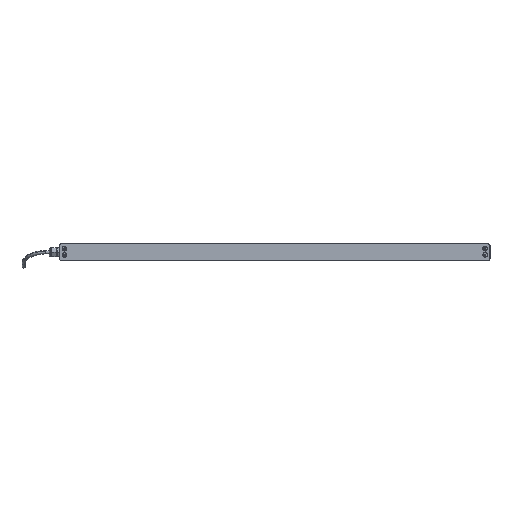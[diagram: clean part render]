
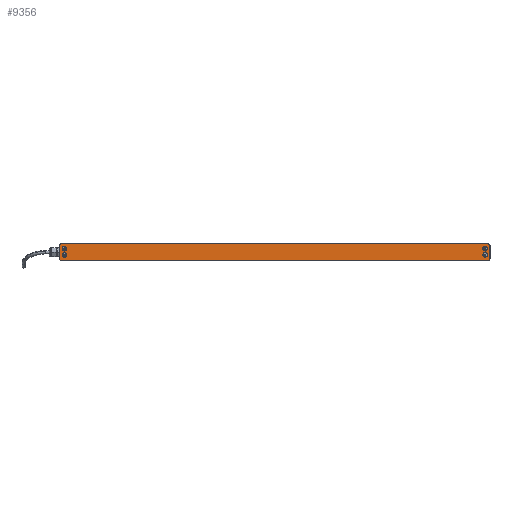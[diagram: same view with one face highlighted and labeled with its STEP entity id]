
A CAD part, left-side view. The second image highlights one B-rep face of the part: STEP entity #9356.
In plain terms, the highlighted planar face has unit normal (-1, 0, 0) as drawn and (0, 0, -1) by its records, which use the part's own axes.
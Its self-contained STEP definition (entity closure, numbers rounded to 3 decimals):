
#121 = EDGE_CURVE ( 'NONE', #3970, #3362, #15264, .T. ) ;
#183 = DIRECTION ( 'NONE',  ( 0., 0., 1. ) ) ;
#190 = CIRCLE ( 'NONE', #9051, 5.6 ) ;
#393 = CARTESIAN_POINT ( 'NONE',  ( 500.7, 8.5, 0. ) ) ;
#458 = CARTESIAN_POINT ( 'NONE',  ( 506.3, 8.5, 0. ) ) ;
#475 = CARTESIAN_POINT ( 'NONE',  ( 514., 20., 0. ) ) ;
#538 = CARTESIAN_POINT ( 'NONE',  ( -500.7, 8.5, 0. ) ) ;
#726 = FACE_BOUND ( 'NONE', #14527, .T. ) ;
#760 = CARTESIAN_POINT ( 'NONE',  ( -511.9, -6.3, 0. ) ) ;
#849 = ORIENTED_EDGE ( 'NONE', *, *, #4020, .F. ) ;
#1157 = VERTEX_POINT ( 'NONE', #12655 ) ;
#1159 = VERTEX_POINT ( 'NONE', #4484 ) ;
#1169 = DIRECTION ( 'NONE',  ( -1., 0., 0. ) ) ;
#1280 = VERTEX_POINT ( 'NONE', #5109 ) ;
#1849 = DIRECTION ( 'NONE',  ( 0., 0., 1. ) ) ;
#1910 = PLANE ( 'NONE',  #3152 ) ;
#1949 = CARTESIAN_POINT ( 'NONE',  ( -514., -20., 0. ) ) ;
#1974 = AXIS2_PLACEMENT_3D ( 'NONE', #14156, #2126, #7984 ) ;
#1983 = CARTESIAN_POINT ( 'NONE',  ( 518., 16., 0. ) ) ;
#2126 = DIRECTION ( 'NONE',  ( 0., 0., -1. ) ) ;
#2312 = VERTEX_POINT ( 'NONE', #11518 ) ;
#2351 = EDGE_CURVE ( 'NONE', #5196, #6879, #12809, .T. ) ;
#2356 = DIRECTION ( 'NONE',  ( 0., 0., -1. ) ) ;
#2375 = CIRCLE ( 'NONE', #2871, 5.6 ) ;
#2514 = ORIENTED_EDGE ( 'NONE', *, *, #10437, .F. ) ;
#2527 = VECTOR ( 'NONE', #10551, 1000. ) ;
#2608 = EDGE_CURVE ( 'NONE', #6361, #1157, #6734, .T. ) ;
#2660 = ORIENTED_EDGE ( 'NONE', *, *, #5566, .F. ) ;
#2854 = ORIENTED_EDGE ( 'NONE', *, *, #4247, .F. ) ;
#2871 = AXIS2_PLACEMENT_3D ( 'NONE', #9573, #2356, #1169 ) ;
#2912 = VECTOR ( 'NONE', #6779, 1000. ) ;
#2943 = AXIS2_PLACEMENT_3D ( 'NONE', #458, #6540, #10109 ) ;
#3027 = DIRECTION ( 'NONE',  ( 0., 0., -1. ) ) ;
#3046 = CARTESIAN_POINT ( 'NONE',  ( -514., -16., 0. ) ) ;
#3152 = AXIS2_PLACEMENT_3D ( 'NONE', #11482, #3027, #12841 ) ;
#3184 = EDGE_CURVE ( 'NONE', #4686, #3429, #6003, .T. ) ;
#3227 = EDGE_CURVE ( 'NONE', #11441, #10648, #190, .T. ) ;
#3362 = VERTEX_POINT ( 'NONE', #475 ) ;
#3429 = VERTEX_POINT ( 'NONE', #5526 ) ;
#3443 = CARTESIAN_POINT ( 'NONE',  ( 518., -16., 0. ) ) ;
#3505 = AXIS2_PLACEMENT_3D ( 'NONE', #10673, #12979, #14072 ) ;
#3748 = ORIENTED_EDGE ( 'NONE', *, *, #121, .F. ) ;
#3826 = CARTESIAN_POINT ( 'NONE',  ( -518., -16., 0. ) ) ;
#3970 = VERTEX_POINT ( 'NONE', #1983 ) ;
#4020 = EDGE_CURVE ( 'NONE', #1159, #9163, #5021, .T. ) ;
#4025 = CIRCLE ( 'NONE', #3505, 5.6 ) ;
#4074 = ORIENTED_EDGE ( 'NONE', *, *, #12779, .F. ) ;
#4152 = FACE_BOUND ( 'NONE', #11975, .T. ) ;
#4247 = EDGE_CURVE ( 'NONE', #12852, #15095, #4025, .T. ) ;
#4291 = AXIS2_PLACEMENT_3D ( 'NONE', #15034, #6490, #11322 ) ;
#4306 = EDGE_LOOP ( 'NONE', ( #6412, #2854 ) ) ;
#4366 = DIRECTION ( 'NONE',  ( -1., 0., 0. ) ) ;
#4397 = EDGE_LOOP ( 'NONE', ( #12977, #2514 ) ) ;
#4484 = CARTESIAN_POINT ( 'NONE',  ( -514., 20., 0. ) ) ;
#4588 = DIRECTION ( 'NONE',  ( -1., 0., 0. ) ) ;
#4686 = VERTEX_POINT ( 'NONE', #760 ) ;
#4794 = CARTESIAN_POINT ( 'NONE',  ( -511.9, 8.5, 0. ) ) ;
#4922 = DIRECTION ( 'NONE',  ( -1., 0., 0. ) ) ;
#5021 = CIRCLE ( 'NONE', #11316, 4. ) ;
#5056 = CIRCLE ( 'NONE', #4291, 4. ) ;
#5109 = CARTESIAN_POINT ( 'NONE',  ( 514., -20., 0. ) ) ;
#5196 = VERTEX_POINT ( 'NONE', #393 ) ;
#5405 = FACE_BOUND ( 'NONE', #4397, .T. ) ;
#5431 = AXIS2_PLACEMENT_3D ( 'NONE', #6228, #11064, #9020 ) ;
#5484 = EDGE_CURVE ( 'NONE', #1280, #2312, #5056, .T. ) ;
#5526 = CARTESIAN_POINT ( 'NONE',  ( -500.7, -6.3, 0. ) ) ;
#5566 = EDGE_CURVE ( 'NONE', #3429, #4686, #15130, .T. ) ;
#5627 = VECTOR ( 'NONE', #13770, 1000. ) ;
#5787 = AXIS2_PLACEMENT_3D ( 'NONE', #14233, #11470, #4588 ) ;
#6003 = CIRCLE ( 'NONE', #12325, 5.6 ) ;
#6228 = CARTESIAN_POINT ( 'NONE',  ( 506.3, -6.3, 0. ) ) ;
#6361 = VERTEX_POINT ( 'NONE', #3826 ) ;
#6376 = CARTESIAN_POINT ( 'NONE',  ( 511.9, -6.3, 0. ) ) ;
#6412 = ORIENTED_EDGE ( 'NONE', *, *, #9664, .F. ) ;
#6490 = DIRECTION ( 'NONE',  ( 0., 0., 1. ) ) ;
#6540 = DIRECTION ( 'NONE',  ( 0., 0., -1. ) ) ;
#6734 = CIRCLE ( 'NONE', #15573, 4. ) ;
#6779 = DIRECTION ( 'NONE',  ( 1., 0., 0. ) ) ;
#6815 = FACE_OUTER_BOUND ( 'NONE', #12146, .T. ) ;
#6860 = DIRECTION ( 'NONE',  ( -1., 0., 0. ) ) ;
#6879 = VERTEX_POINT ( 'NONE', #14389 ) ;
#7208 = CARTESIAN_POINT ( 'NONE',  ( -506.3, 8.5, 0. ) ) ;
#7229 = CARTESIAN_POINT ( 'NONE',  ( -518., 16., 0. ) ) ;
#7308 = ORIENTED_EDGE ( 'NONE', *, *, #5484, .F. ) ;
#7967 = LINE ( 'NONE', #1949, #2912 ) ;
#7984 = DIRECTION ( 'NONE',  ( -1., 0., 0. ) ) ;
#8079 = ORIENTED_EDGE ( 'NONE', *, *, #9681, .F. ) ;
#8154 = ORIENTED_EDGE ( 'NONE', *, *, #2608, .F. ) ;
#8340 = DIRECTION ( 'NONE',  ( -1., 0., 0. ) ) ;
#8419 = EDGE_CURVE ( 'NONE', #9163, #6361, #10943, .T. ) ;
#8486 = AXIS2_PLACEMENT_3D ( 'NONE', #8657, #183, #13642 ) ;
#8657 = CARTESIAN_POINT ( 'NONE',  ( 514., 16., 0. ) ) ;
#8812 = EDGE_CURVE ( 'NONE', #3362, #1159, #9170, .T. ) ;
#9020 = DIRECTION ( 'NONE',  ( -1., 0., 0. ) ) ;
#9051 = AXIS2_PLACEMENT_3D ( 'NONE', #7208, #10856, #4922 ) ;
#9163 = VERTEX_POINT ( 'NONE', #7229 ) ;
#9170 = LINE ( 'NONE', #9323, #10457 ) ;
#9198 = CARTESIAN_POINT ( 'NONE',  ( -514., 16., 0. ) ) ;
#9323 = CARTESIAN_POINT ( 'NONE',  ( -514., 20., 0. ) ) ;
#9356 = ADVANCED_FACE ( 'NONE', ( #5405, #11405, #4152, #726, #6815 ), #1910, .T. ) ;
#9573 = CARTESIAN_POINT ( 'NONE',  ( -506.3, 8.5, 0. ) ) ;
#9664 = EDGE_CURVE ( 'NONE', #15095, #12852, #14279, .T. ) ;
#9681 = EDGE_CURVE ( 'NONE', #1157, #1280, #7967, .T. ) ;
#10109 = DIRECTION ( 'NONE',  ( -1., 0., 0. ) ) ;
#10437 = EDGE_CURVE ( 'NONE', #6879, #5196, #15616, .T. ) ;
#10457 = VECTOR ( 'NONE', #6860, 1000. ) ;
#10551 = DIRECTION ( 'NONE',  ( 0., 1., 0. ) ) ;
#10648 = VERTEX_POINT ( 'NONE', #538 ) ;
#10673 = CARTESIAN_POINT ( 'NONE',  ( 506.3, -6.3, 0. ) ) ;
#10856 = DIRECTION ( 'NONE',  ( 0., 0., -1. ) ) ;
#10943 = LINE ( 'NONE', #14944, #5627 ) ;
#11033 = CARTESIAN_POINT ( 'NONE',  ( 500.7, -6.3, 0. ) ) ;
#11064 = DIRECTION ( 'NONE',  ( 0., 0., -1. ) ) ;
#11316 = AXIS2_PLACEMENT_3D ( 'NONE', #9198, #13084, #4366 ) ;
#11322 = DIRECTION ( 'NONE',  ( 1., 0., 0. ) ) ;
#11405 = FACE_BOUND ( 'NONE', #4306, .T. ) ;
#11424 = DIRECTION ( 'NONE',  ( -1., 0., 0. ) ) ;
#11441 = VERTEX_POINT ( 'NONE', #4794 ) ;
#11470 = DIRECTION ( 'NONE',  ( 0., 0., -1. ) ) ;
#11482 = CARTESIAN_POINT ( 'NONE',  ( 514., 16., 0. ) ) ;
#11485 = ORIENTED_EDGE ( 'NONE', *, *, #3227, .F. ) ;
#11518 = CARTESIAN_POINT ( 'NONE',  ( 518., -16., 0. ) ) ;
#11666 = ORIENTED_EDGE ( 'NONE', *, *, #8812, .F. ) ;
#11975 = EDGE_LOOP ( 'NONE', ( #11485, #4074 ) ) ;
#12122 = DIRECTION ( 'NONE',  ( 0., 0., -1. ) ) ;
#12146 = EDGE_LOOP ( 'NONE', ( #3748, #14232, #7308, #8079, #8154, #13842, #849, #11666 ) ) ;
#12242 = EDGE_CURVE ( 'NONE', #2312, #3970, #13031, .T. ) ;
#12325 = AXIS2_PLACEMENT_3D ( 'NONE', #14418, #12122, #8340 ) ;
#12655 = CARTESIAN_POINT ( 'NONE',  ( -514., -20., 0. ) ) ;
#12779 = EDGE_CURVE ( 'NONE', #10648, #11441, #2375, .T. ) ;
#12809 = CIRCLE ( 'NONE', #2943, 5.6 ) ;
#12841 = DIRECTION ( 'NONE',  ( -1., 0., 0. ) ) ;
#12852 = VERTEX_POINT ( 'NONE', #6376 ) ;
#12977 = ORIENTED_EDGE ( 'NONE', *, *, #2351, .F. ) ;
#12979 = DIRECTION ( 'NONE',  ( 0., 0., -1. ) ) ;
#13031 = LINE ( 'NONE', #3443, #2527 ) ;
#13084 = DIRECTION ( 'NONE',  ( 0., 0., 1. ) ) ;
#13642 = DIRECTION ( 'NONE',  ( -1., 0., 0. ) ) ;
#13770 = DIRECTION ( 'NONE',  ( 0., -1., 0. ) ) ;
#13842 = ORIENTED_EDGE ( 'NONE', *, *, #8419, .F. ) ;
#14053 = ORIENTED_EDGE ( 'NONE', *, *, #3184, .F. ) ;
#14072 = DIRECTION ( 'NONE',  ( -1., 0., 0. ) ) ;
#14156 = CARTESIAN_POINT ( 'NONE',  ( 506.3, 8.5, 0. ) ) ;
#14232 = ORIENTED_EDGE ( 'NONE', *, *, #12242, .F. ) ;
#14233 = CARTESIAN_POINT ( 'NONE',  ( -506.3, -6.3, 0. ) ) ;
#14279 = CIRCLE ( 'NONE', #5431, 5.6 ) ;
#14389 = CARTESIAN_POINT ( 'NONE',  ( 511.9, 8.5, 0. ) ) ;
#14418 = CARTESIAN_POINT ( 'NONE',  ( -506.3, -6.3, 0. ) ) ;
#14527 = EDGE_LOOP ( 'NONE', ( #14053, #2660 ) ) ;
#14944 = CARTESIAN_POINT ( 'NONE',  ( -518., -16., 0. ) ) ;
#15034 = CARTESIAN_POINT ( 'NONE',  ( 514., -16., 0. ) ) ;
#15095 = VERTEX_POINT ( 'NONE', #11033 ) ;
#15130 = CIRCLE ( 'NONE', #5787, 5.6 ) ;
#15264 = CIRCLE ( 'NONE', #8486, 4. ) ;
#15573 = AXIS2_PLACEMENT_3D ( 'NONE', #3046, #1849, #11424 ) ;
#15616 = CIRCLE ( 'NONE', #1974, 5.6 ) ;
